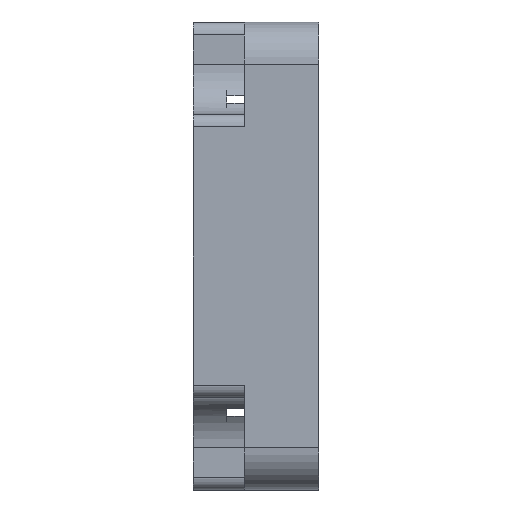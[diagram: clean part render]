
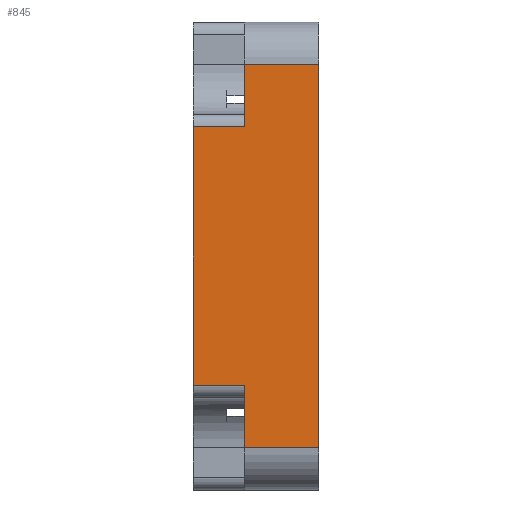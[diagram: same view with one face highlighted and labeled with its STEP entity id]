
A CAD part, left-side view. The second image highlights one B-rep face of the part: STEP entity #845.
In plain terms, the highlighted planar face has unit normal (-1, 0, 0).
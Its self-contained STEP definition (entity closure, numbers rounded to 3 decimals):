
#186 = EDGE_CURVE ( 'NONE', #209, #340, #3062, .T. ) ;
#209 = VERTEX_POINT ( 'NONE', #2311 ) ;
#215 = VERTEX_POINT ( 'NONE', #390 ) ;
#228 = PLANE ( 'NONE',  #2549 ) ;
#293 = FACE_OUTER_BOUND ( 'NONE', #2713, .T. ) ;
#319 = ORIENTED_EDGE ( 'NONE', *, *, #1738, .T. ) ;
#340 = VERTEX_POINT ( 'NONE', #3045 ) ;
#381 = DIRECTION ( 'NONE',  ( 0., 0., 1. ) ) ;
#383 = LINE ( 'NONE', #2287, #771 ) ;
#390 = CARTESIAN_POINT ( 'NONE',  ( -16.65, -2., -7.5 ) ) ;
#424 = VECTOR ( 'NONE', #1441, 1000. ) ;
#455 = CARTESIAN_POINT ( 'NONE',  ( -16.65, -2., -5.05 ) ) ;
#511 = LINE ( 'NONE', #1253, #850 ) ;
#571 = VECTOR ( 'NONE', #381, 1000. ) ;
#576 = CARTESIAN_POINT ( 'NONE',  ( -16.65, -4.9, -7.5 ) ) ;
#589 = VECTOR ( 'NONE', #2390, 1000. ) ;
#643 = VERTEX_POINT ( 'NONE', #1306 ) ;
#771 = VECTOR ( 'NONE', #1542, 1000. ) ;
#792 = EDGE_CURVE ( 'NONE', #643, #209, #1585, .T. ) ;
#815 = VECTOR ( 'NONE', #2212, 1000. ) ;
#845 = ADVANCED_FACE ( 'NONE', ( #293 ), #228, .T. ) ;
#850 = VECTOR ( 'NONE', #1472, 1000. ) ;
#860 = CARTESIAN_POINT ( 'NONE',  ( -16.65, 0., -7.5 ) ) ;
#962 = DIRECTION ( 'NONE',  ( 0., 0., 1. ) ) ;
#967 = LINE ( 'NONE', #1191, #424 ) ;
#968 = VERTEX_POINT ( 'NONE', #1500 ) ;
#1017 = EDGE_CURVE ( 'NONE', #2131, #215, #511, .T. ) ;
#1107 = VECTOR ( 'NONE', #1797, 1000. ) ;
#1112 = EDGE_CURVE ( 'NONE', #215, #643, #2805, .T. ) ;
#1128 = CARTESIAN_POINT ( 'NONE',  ( -16.65, -4.9, -7.5 ) ) ;
#1166 = ORIENTED_EDGE ( 'NONE', *, *, #1017, .F. ) ;
#1191 = CARTESIAN_POINT ( 'NONE',  ( -16.65, -2., 7.5 ) ) ;
#1253 = CARTESIAN_POINT ( 'NONE',  ( -16.65, -4.9, -7.5 ) ) ;
#1306 = CARTESIAN_POINT ( 'NONE',  ( -16.65, -2., -5.05 ) ) ;
#1441 = DIRECTION ( 'NONE',  ( 0., 0., 1. ) ) ;
#1445 = DIRECTION ( 'NONE',  ( -1., 0., 0. ) ) ;
#1472 = DIRECTION ( 'NONE',  ( 0., 1., 0. ) ) ;
#1490 = CARTESIAN_POINT ( 'NONE',  ( -16.65, -2., -5.05 ) ) ;
#1492 = CARTESIAN_POINT ( 'NONE',  ( -16.65, -4.9, 7.5 ) ) ;
#1500 = CARTESIAN_POINT ( 'NONE',  ( -16.65, -2., 7.5 ) ) ;
#1542 = DIRECTION ( 'NONE',  ( 0., 1., 0. ) ) ;
#1585 = LINE ( 'NONE', #455, #589 ) ;
#1671 = DIRECTION ( 'NONE',  ( 0., 1., 0. ) ) ;
#1675 = CARTESIAN_POINT ( 'NONE',  ( -16.65, -2., 5.05 ) ) ;
#1732 = LINE ( 'NONE', #3088, #2916 ) ;
#1738 = EDGE_CURVE ( 'NONE', #2131, #2714, #1841, .T. ) ;
#1761 = EDGE_CURVE ( 'NONE', #2714, #968, #383, .T. ) ;
#1797 = DIRECTION ( 'NONE',  ( 0., 0., 1. ) ) ;
#1841 = LINE ( 'NONE', #576, #1107 ) ;
#1858 = ORIENTED_EDGE ( 'NONE', *, *, #1761, .T. ) ;
#1865 = ORIENTED_EDGE ( 'NONE', *, *, #2530, .F. ) ;
#1967 = VERTEX_POINT ( 'NONE', #1675 ) ;
#2080 = ORIENTED_EDGE ( 'NONE', *, *, #3016, .T. ) ;
#2131 = VERTEX_POINT ( 'NONE', #1128 ) ;
#2212 = DIRECTION ( 'NONE',  ( 0., 0., 1. ) ) ;
#2216 = ORIENTED_EDGE ( 'NONE', *, *, #1112, .F. ) ;
#2287 = CARTESIAN_POINT ( 'NONE',  ( -16.65, -4.9, 7.5 ) ) ;
#2311 = CARTESIAN_POINT ( 'NONE',  ( -16.65, 0., -5.05 ) ) ;
#2390 = DIRECTION ( 'NONE',  ( 0., 1., 0. ) ) ;
#2530 = EDGE_CURVE ( 'NONE', #1967, #968, #967, .T. ) ;
#2549 = AXIS2_PLACEMENT_3D ( 'NONE', #2637, #1445, #962 ) ;
#2637 = CARTESIAN_POINT ( 'NONE',  ( -16.65, -4.9, -7.5 ) ) ;
#2713 = EDGE_LOOP ( 'NONE', ( #2785, #2956, #2216, #1166, #319, #1858, #1865, #2080 ) ) ;
#2714 = VERTEX_POINT ( 'NONE', #1492 ) ;
#2785 = ORIENTED_EDGE ( 'NONE', *, *, #186, .F. ) ;
#2805 = LINE ( 'NONE', #1490, #815 ) ;
#2916 = VECTOR ( 'NONE', #1671, 1000. ) ;
#2956 = ORIENTED_EDGE ( 'NONE', *, *, #792, .F. ) ;
#3016 = EDGE_CURVE ( 'NONE', #1967, #340, #1732, .T. ) ;
#3045 = CARTESIAN_POINT ( 'NONE',  ( -16.65, 0., 5.05 ) ) ;
#3062 = LINE ( 'NONE', #860, #571 ) ;
#3088 = CARTESIAN_POINT ( 'NONE',  ( -16.65, -2., 5.05 ) ) ;
